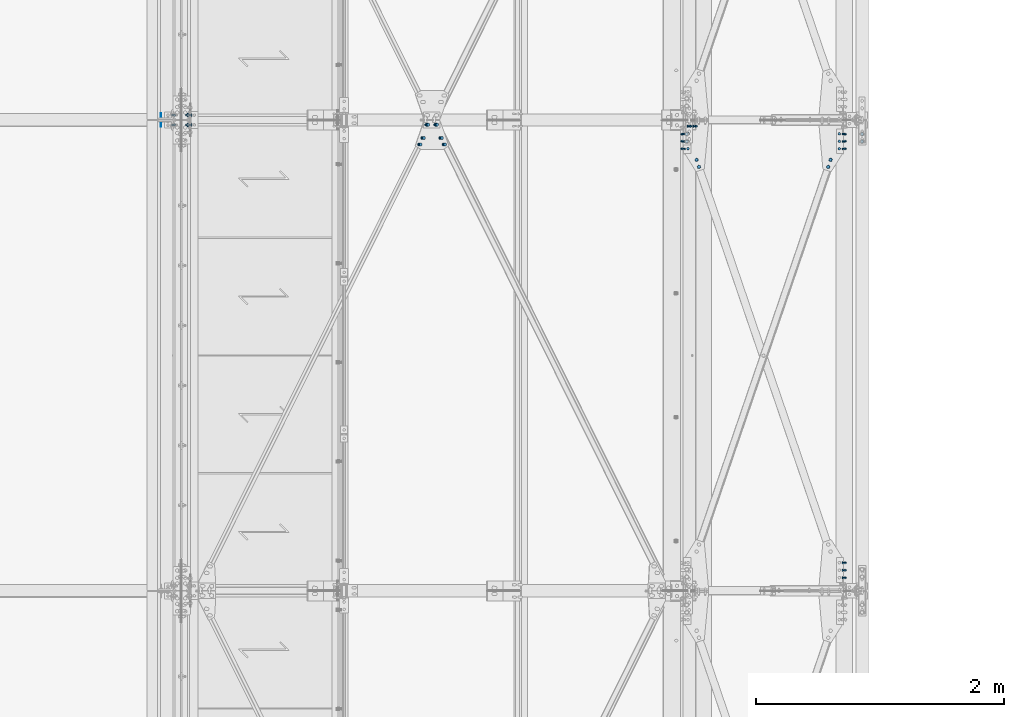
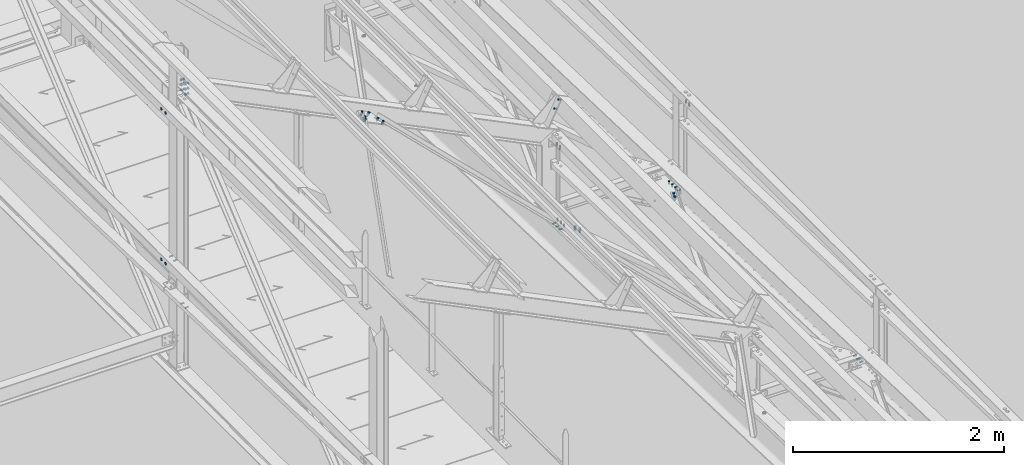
# One storey, part 193 of 362: 18 mechanical fasteners.
"""IFC2X3 building model written with IfcOpenShell, lengths in millimetres."""

from ifc_helpers import new_model, si_unit, frame, frame_2d, origin_with_axes, origin_2d_with_axis, place, context, subcontext, project, spatial, polyline, circle_curve, parameter, trimmed, segment, composite_curve, circle, outline, extrude, source, transform, mapped, material, type_object, element, save


model = new_model("IFC2X3")

# Units and contexts
model_context = context("Model", 3, precision=1e-05, world=origin_with_axes())
body_context = subcontext(model_context, "Body", "Model", "MODEL_VIEW")
ifc_project = project(units=[si_unit("LENGTHUNIT", "METRE", prefix="MILLI"), si_unit("AREAUNIT", "SQUARE_METRE"), si_unit("VOLUMEUNIT", "CUBIC_METRE"), si_unit("MASSUNIT", "GRAM", prefix="KILO"), si_unit("TIMEUNIT", "SECOND"), si_unit("PLANEANGLEUNIT", "RADIAN"), si_unit("SOLIDANGLEUNIT", "STERADIAN"), si_unit("THERMODYNAMICTEMPERATUREUNIT", "DEGREE_CELSIUS"), si_unit("LUMINOUSINTENSITYUNIT", "LUMEN")], contexts=[model_context])

# Site, building, storey
site_placement = place(None, origin_with_axes())
site = spatial("IfcSite", under=ifc_project, at=site_placement, Name="Undefined", CompositionType="ELEMENT")
building_placement = place(site_placement, origin_with_axes())
building = spatial("IfcBuilding", under=site, at=building_placement, Name="Undefined", CompositionType="ELEMENT")
storey_placement = place(building_placement, origin_with_axes())
storey = spatial("IfcBuildingStorey", under=building, at=storey_placement, Name="Undefined", CompositionType="ELEMENT", Elevation=0.0)

# Mechanical fasteners
ifc_material_1 = material(Name="8.8-SB-ZINGUE")
mechanical_fastener_type = type_object("IfcMechanicalFastenerType", Name="Bolt assembly")
shared_shape_1 = source(origin_with_axes(), body_context, "Body", "SweptSolid", [
    extrude(circle(Radius=7.0, at=origin_2d_with_axis()), frame((0.0, -0.10007666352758, 0.0), z_axis=(0.0, 1.0, 0.0), x_axis=(1.0, 0.0, 0.0)), (0.0, 0.0, 1.0), 3.1),
    extrude(circle(Radius=7.0, at=origin_2d_with_axis()), frame((0.0, -9.9, 0.0), z_axis=(0.0, 1.0, 0.0), x_axis=(1.0, 0.0, 0.0)), (0.0, 0.0, 1.0), 10.0),
    extrude(outline(polyline([(10.39230484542, 0.0), (5.19615242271, 9.00000000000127), (-5.19615242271, 9.00000000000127), (-10.39230484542, 0.0), (-5.19615242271, -9.00000000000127), (5.19615242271, -9.00000000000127), (10.39230484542, 0.0)])), frame((0.0, -17.92, 0.0), z_axis=(0.0, 1.0, 0.0), x_axis=(1.0, 0.0, 0.0)), (0.0, 0.0, 1.0), 7.92),
    extrude(circle(Radius=6.0, at=origin_2d_with_axis()), frame((0.0, -10.0000010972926, 0.0), z_axis=(0.0, 1.0, 0.0), x_axis=(1.0, 0.0, 0.0)), (0.0, 0.0, 1.0), 30.0),
    extrude(outline(polyline([(11.5008173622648, 0.0), (5.7504086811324, 9.96000000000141), (-5.7504086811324, 9.96000000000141), (-11.5008173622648, 0.0), (-5.7504086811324, -9.96000000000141), (5.7504086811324, -9.96000000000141), (11.5008173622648, 0.0)])), frame((0.0, 3.00000067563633, 0.0), z_axis=(0.0, 1.0, 0.0), x_axis=(1.0, 0.0, 0.0)), (0.0, 0.0, 1.0), 7.92),
])
mechanical_fastener_1_placement = place(storey_placement, frame((38381.4177064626, 11350.0000596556, 8807.89604207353), z_axis=(0.0, 1.0, 0.0), x_axis=(0.44122107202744, 0.0, 0.89739844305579)))
element("IfcMechanicalFastener", 1, at=mechanical_fastener_1_placement, inside=storey, type_object=mechanical_fastener_type, material=ifc_material_1, Name="Bolt assembly", NominalDiameter=12.0, NominalLength=30.0, context=body_context, shape_type="MappedRepresentation", body=[
    mapped(shared_shape_1, transform((0.0, 0.0, 0.0))),
    mapped(shared_shape_1, transform((99.9999999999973, -1.63709046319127e-11, 7.73070496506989e-12))),
])
ifc_material_2 = material(Name="6.8")
shared_shape_2 = source(origin_with_axes(), body_context, "Body", "SweptSolid", [
    extrude(circle(Radius=15.0, at=origin_2d_with_axis()), frame((0.0, 0.0, 0.0), z_axis=(0.0, 1.0, 0.0), x_axis=(1.0, 0.0, 0.0)), (0.0, 0.0, 1.0), 4.1),
])
mechanical_fastener_2_placement = place(storey_placement, frame((34113.4999999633, 11400.0, 10245.0), z_axis=(0.0, 1.0, 0.0), x_axis=(0.0, 0.0, 1.0)))
element("IfcMechanicalFastener", 2, at=mechanical_fastener_2_placement, inside=storey, type_object=mechanical_fastener_type, material=ifc_material_2, Name="Bolt assembly", NominalDiameter=30.0, NominalLength=4.0, context=body_context, shape_type="MappedRepresentation", body=[
    mapped(shared_shape_2, transform((0.0, 0.0, 40.0))),
    mapped(shared_shape_2, transform((0.0, 0.0, -40.0))),
])
shared_shape_3 = source(origin_with_axes(), body_context, "Body", "SweptSolid", [
    extrude(circle(Radius=7.0, at=origin_2d_with_axis()), frame((0.0, -0.100011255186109, 0.0), z_axis=(0.0, 1.0, 0.0), x_axis=(1.0, 0.0, 0.0)), (0.0, 0.0, 1.0), 6.1),
    extrude(circle(Radius=7.0, at=origin_2d_with_axis()), frame((0.0, -5.9000361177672, 0.0), z_axis=(0.0, 1.0, 0.0), x_axis=(1.0, 0.0, 0.0)), (0.0, 0.0, 1.0), 6.0),
    extrude(outline(polyline([(10.39230484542, 0.0), (5.19615242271, 9.00000000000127), (-5.19615242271, 9.00000000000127), (-10.39230484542, 0.0), (-5.19615242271, -9.00000000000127), (5.19615242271, -9.00000000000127), (10.39230484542, 0.0)])), frame((0.0, -13.9200361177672, 0.0), z_axis=(0.0, 1.0, 0.0), x_axis=(1.0, 0.0, 0.0)), (0.0, 0.0, 1.0), 7.92),
    extrude(circle(Radius=6.0, at=origin_2d_with_axis()), frame((0.0, -6.00003611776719, 0.0), z_axis=(0.0, 1.0, 0.0), x_axis=(1.0, 0.0, 0.0)), (0.0, 0.0, 1.0), 30.0),
    extrude(outline(polyline([(11.5008173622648, 0.0), (5.7504086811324, 9.96000000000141), (-5.7504086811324, 9.96000000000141), (-11.5008173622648, 0.0), (-5.7504086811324, -9.96000000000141), (5.7504086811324, -9.96000000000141), (11.5008173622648, 0.0)])), frame((0.0, 6.0, 0.0), z_axis=(0.0, 1.0, 0.0), x_axis=(1.0, 0.0, 0.0)), (0.0, 0.0, 1.0), 7.92),
])
mechanical_fastener_3_placement = place(storey_placement, frame((38370.0, 11228.0107646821, 7571.08332484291), z_axis=(0.0, -0.999506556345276, 0.031410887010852), x_axis=(-1.0, 0.0, 0.0)))
element("IfcMechanicalFastener", 3, at=mechanical_fastener_3_placement, inside=storey, type_object=mechanical_fastener_type, material=ifc_material_1, Name="Bolt assembly", NominalDiameter=12.0, NominalLength=30.0, context=body_context, shape_type="MappedRepresentation", body=[
    mapped(shared_shape_3, transform((0.0, 0.0, -60.0))),
    mapped(shared_shape_3, transform((0.0, 0.0, 0.0))),
    mapped(shared_shape_3, transform((0.0, 0.0, 60.0))),
])
shared_shape_4 = source(origin_with_axes(), body_context, "Body", "SweptSolid", [
    extrude(circle(Radius=7.0, at=origin_2d_with_axis()), frame((0.0, -0.0999426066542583, 0.0), z_axis=(0.0, 1.0, 0.0), x_axis=(1.0, 0.0, 0.0)), (0.0, 0.0, 1.0), 8.6),
    extrude(circle(Radius=7.0, at=origin_2d_with_axis()), frame((0.0, -6.9, 0.0), z_axis=(0.0, 1.0, 0.0), x_axis=(1.0, 0.0, 0.0)), (0.0, 0.0, 1.0), 7.0),
    extrude(outline(polyline([(10.39230484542, 0.0), (5.19615242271, 9.00000000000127), (-5.19615242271, 9.00000000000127), (-10.39230484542, 0.0), (-5.19615242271, -9.00000000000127), (5.19615242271, -9.00000000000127), (10.39230484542, 0.0)])), frame((0.0, -14.92, 0.0), z_axis=(0.0, 1.0, 0.0), x_axis=(1.0, 0.0, 0.0)), (0.0, 0.0, 1.0), 7.92),
    extrude(circle(Radius=6.0, at=origin_2d_with_axis()), frame((0.0, -7.0, 0.0), z_axis=(0.0, 1.0, 0.0), x_axis=(1.0, 0.0, 0.0)), (0.0, 0.0, 1.0), 30.0),
    extrude(outline(polyline([(11.5008173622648, 0.0), (5.7504086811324, 9.96000000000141), (-5.7504086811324, 9.96000000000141), (-11.5008173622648, 0.0), (-5.7504086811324, -9.96000000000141), (5.7504086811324, -9.96000000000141), (11.5008173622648, 0.0)])), frame((0.0, 8.50005763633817, 0.0), z_axis=(0.0, 1.0, 0.0), x_axis=(1.0, 0.0, 0.0)), (0.0, 0.0, 1.0), 7.92),
])
mechanical_fastener_4_placement = place(storey_placement, frame((34346.5000576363, 11399.9999999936, 7910.00000000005), z_axis=(0.0, -1.0, 0.0), x_axis=(0.0, 0.0, 1.0)))
element("IfcMechanicalFastener", 4, at=mechanical_fastener_4_placement, inside=storey, type_object=mechanical_fastener_type, material=ifc_material_1, Name="Bolt assembly", NominalDiameter=12.0, NominalLength=30.0, context=body_context, shape_type="MappedRepresentation", body=[
    mapped(shared_shape_4, transform((0.0, 0.0, -40.0))),
    mapped(shared_shape_4, transform((0.0, 0.0, 40.0))),
])
shared_shape_5 = source(origin_with_axes(), body_context, "Body", "SweptSolid", [
    extrude(circle(Radius=7.0, at=origin_2d_with_axis()), frame((0.0, -3.89999843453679, 0.0), z_axis=(0.0, 1.0, 0.0), x_axis=(1.0, 0.0, 0.0)), (0.0, 0.0, 1.0), 4.0),
    extrude(outline(composite_curve([segment(polyline([(-7.0, 7.0), (7.0, 7.0)]), True, "CONTINUOUS"), segment(trimmed(circle_curve(frame_2d((7.0, 0.0), x_axis=(0.0, 1.0)), 7.0), [parameter(0.0)], [parameter(3.14159265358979)], False, "PARAMETER"), True, "CONTINUOUS"), segment(polyline([(7.0, -7.0), (-7.0, -7.0)]), True, "CONTINUOUS"), segment(trimmed(circle_curve(frame_2d((-7.0, 0.0), x_axis=(0.0, -1.0)), 7.0), [parameter(0.0)], [parameter(3.14159265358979)], False, "PARAMETER"), True, "DISCONTINUOUS")], self_intersect=False)), frame((0.0, -0.100011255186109, 0.0), z_axis=(0.0, 1.0, 0.0), x_axis=(1.0, 0.0, 0.0)), (0.0, 0.0, 1.0), 10.1),
    extrude(outline(polyline([(10.39230484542, 0.0), (5.19615242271, 9.00000000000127), (-5.19615242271, 9.00000000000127), (-10.39230484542, 0.0), (-5.19615242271, -9.00000000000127), (5.19615242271, -9.00000000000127), (10.39230484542, 0.0)])), frame((0.0, -11.9199984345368, 0.0), z_axis=(0.0, 1.0, 0.0), x_axis=(1.0, 0.0, 0.0)), (0.0, 0.0, 1.0), 7.92),
    extrude(circle(Radius=6.0, at=origin_2d_with_axis()), frame((0.0, -3.99999923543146, 0.0), z_axis=(0.0, 1.0, 0.0), x_axis=(1.0, 0.0, 0.0)), (0.0, 0.0, 1.0), 40.0),
    extrude(circle(Radius=10.8, at=origin_2d_with_axis()), frame((0.0, 10.0000000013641, 0.0), z_axis=(0.0, 1.0, 0.0), x_axis=(1.0, 0.0, 0.0)), (0.0, 0.0, 1.0), 3.96),
    extrude(outline(polyline([(11.5008173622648, 0.0), (5.7504086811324, 9.96000000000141), (-5.7504086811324, 9.96000000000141), (-11.5008173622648, 0.0), (-5.7504086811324, -9.96000000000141), (5.7504086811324, -9.96000000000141), (11.5008173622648, 0.0)])), frame((0.0, 13.96, 0.0), z_axis=(0.0, 1.0, 0.0), x_axis=(1.0, 0.0, 0.0)), (0.0, 0.0, 1.0), 7.92),
])
mechanical_fastener_5_placement = place(storey_placement, frame((39775.0, 11226.5, 8450.0), z_axis=(-1.0, 0.0, 0.0), x_axis=(0.0, 1.0, 0.0)))
element("IfcMechanicalFastener", 5, at=mechanical_fastener_5_placement, inside=storey, type_object=mechanical_fastener_type, material=ifc_material_1, Name="Bolt assembly", NominalDiameter=12.0, NominalLength=40.0, context=body_context, shape_type="MappedRepresentation", body=[
    mapped(shared_shape_5, transform((0.0, 0.0, 0.0))),
    mapped(shared_shape_5, transform((60.0, 0.0, 0.0))),
])
ifc_material_3 = material(Name="#_SB-8.8-ZINGUE")
shared_shape_6 = source(origin_with_axes(), body_context, "Body", "SweptSolid", [
    extrude(circle(Radius=9.0, at=origin_2d_with_axis()), frame((0.0, -4.89938005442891, 0.0), z_axis=(0.0, 1.0, 0.0), x_axis=(1.0, 0.0, 0.0)), (0.0, 0.0, 1.0), 5.0),
    extrude(circle(Radius=9.0, at=origin_2d_with_axis()), frame((0.0, -0.0993474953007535, 0.0), z_axis=(0.0, 1.0, 0.0), x_axis=(1.0, 0.0, 0.0)), (0.0, 0.0, 1.0), 6.1),
    extrude(outline(polyline([(13.85640646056, 0.0), (6.92820323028, 12.0000000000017), (-6.92820323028, 12.0000000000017), (-13.85640646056, 0.0), (-6.92820323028, -12.0000000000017), (6.92820323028, -12.0000000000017), (13.85640646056, 0.0)])), frame((0.0, -15.5593800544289, 0.0), z_axis=(0.0, 1.0, 0.0), x_axis=(1.0, 0.0, 0.0)), (0.0, 0.0, 1.0), 10.56),
    extrude(circle(Radius=8.0, at=origin_2d_with_axis()), frame((0.0, -4.99938005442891, 0.0), z_axis=(0.0, 1.0, 0.0), x_axis=(1.0, 0.0, 0.0)), (0.0, 0.0, 1.0), 30.0),
    extrude(outline(polyline([(15.3344231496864, 0.0), (7.6672115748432, 13.2800000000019), (-7.6672115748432, 13.2800000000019), (-15.3344231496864, 0.0), (-7.6672115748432, -13.2800000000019), (7.6672115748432, -13.2800000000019), (15.3344231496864, 0.0)])), frame((0.0, 6.00065250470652, 0.0), z_axis=(0.0, 1.0, 0.0), x_axis=(1.0, 0.0, 0.0)), (0.0, 0.0, 1.0), 10.56),
])
for number, where, z_axis, x_axis, name in (
    (6, (36377.1777893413, 11254.9111471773, 9447.87172979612), (0.784869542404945, 0.484835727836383, -0.385893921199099), (0.435090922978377, -0.874605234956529, -0.213919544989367), "Bolt assembly"),
    (7, (36232.8227392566, 11254.9111420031, 9518.84624567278), (0.784869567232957, -0.484835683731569, -0.385893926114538), (-0.43509087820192, -0.874605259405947, 0.213919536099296), "Bolt assembly"),
):
    element("IfcMechanicalFastener", number, at=place(storey_placement, frame(where, z_axis=z_axis, x_axis=x_axis)), inside=storey, type_object=mechanical_fastener_type, material=ifc_material_3, Name=name, NominalDiameter=16.0, NominalLength=30.0, context=body_context, shape_type="MappedRepresentation", body=[
        mapped(shared_shape_6, transform((0.0, 0.0, 0.0))),
        mapped(shared_shape_6, transform((60.0, 0.0, 0.0))),
    ])
shared_shape_7 = source(origin_with_axes(), body_context, "Body", "SweptSolid", [
    extrude(circle(Radius=9.0, at=origin_2d_with_axis()), frame((0.0, 5.90002706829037, 0.0), z_axis=(0.0, 1.0, 0.0), x_axis=(1.0, 0.0, 0.0)), (0.0, 0.0, 1.0), 6.1),
    extrude(circle(Radius=9.0, at=origin_2d_with_axis()), frame((0.0, 0.1, 0.0), z_axis=(0.0, 1.0, 0.0), x_axis=(1.0, 0.0, 0.0)), (0.0, 0.0, 1.0), 6.0),
    extrude(outline(polyline([(13.85640646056, 0.0), (6.92820323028, 12.0000000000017), (-6.92820323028, 12.0000000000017), (-13.85640646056, 0.0), (-6.92820323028, -12.0000000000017), (6.92820323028, -12.0000000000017), (13.85640646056, 0.0)])), frame((0.0, -10.5600019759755, 0.0), z_axis=(0.0, 1.0, 0.0), x_axis=(1.0, 0.0, 0.0)), (0.0, 0.0, 1.0), 10.56),
    extrude(circle(Radius=8.0, at=origin_2d_with_axis()), frame((0.0, 0.0, 0.0), z_axis=(0.0, 1.0, 0.0), x_axis=(1.0, 0.0, 0.0)), (0.0, 0.0, 1.0), 40.0),
    extrude(outline(polyline([(15.3344231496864, 0.0), (7.6672115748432, 13.2800000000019), (-7.6672115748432, 13.2800000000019), (-15.3344231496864, 0.0), (-7.6672115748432, -13.2800000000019), (7.6672115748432, -13.2800000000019), (15.3344231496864, 0.0)])), frame((0.0, 12.0000270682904, 0.0), z_axis=(0.0, 1.0, 0.0), x_axis=(1.0, 0.0, 0.0)), (0.0, 0.0, 1.0), 10.56),
])
mechanical_fastener_6_placement = place(storey_placement, frame((36304.9967059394, 11362.0004570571, 9483.36004369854), z_axis=(-0.897398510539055, -1.29999898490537e-08, 0.441220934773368), x_axis=(0.0, 1.0, 0.0)))
element("IfcMechanicalFastener", 8, at=mechanical_fastener_6_placement, inside=storey, type_object=mechanical_fastener_type, material=ifc_material_3, Name="Bolt assembly", NominalDiameter=16.0, NominalLength=40.0, context=body_context, shape_type="MappedRepresentation", body=[
    mapped(shared_shape_7, transform((0.0, 0.0, -40.0))),
    mapped(shared_shape_7, transform((0.0, 0.0, 40.0))),
])
shared_shape_8 = source(origin_with_axes(), body_context, "Body", "SweptSolid", [
    extrude(circle(Radius=7.0, at=origin_2d_with_axis()), frame((0.0, -3.89999843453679, 0.0), z_axis=(0.0, 1.0, 0.0), x_axis=(1.0, 0.0, 0.0)), (0.0, 0.0, 1.0), 4.0),
    extrude(outline(composite_curve([segment(polyline([(-7.0, 7.0), (7.0, 7.0)]), True, "CONTINUOUS"), segment(trimmed(circle_curve(frame_2d((7.0, 0.0), x_axis=(0.0, 1.0)), 7.0), [parameter(0.0)], [parameter(3.14159265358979)], False, "PARAMETER"), True, "CONTINUOUS"), segment(polyline([(7.0, -7.0), (-7.0, -7.0)]), True, "CONTINUOUS"), segment(trimmed(circle_curve(frame_2d((-7.0, 0.0), x_axis=(0.0, -1.0)), 7.0), [parameter(0.0)], [parameter(3.14159265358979)], False, "PARAMETER"), True, "DISCONTINUOUS")], self_intersect=False)), frame((0.0, -0.100011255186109, 0.0), z_axis=(0.0, 1.0, 0.0), x_axis=(1.0, 0.0, 0.0)), (0.0, 0.0, 1.0), 10.1),
    extrude(outline(polyline([(10.39230484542, 0.0), (5.19615242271, 9.00000000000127), (-5.19615242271, 9.00000000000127), (-10.39230484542, 0.0), (-5.19615242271, -9.00000000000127), (5.19615242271, -9.00000000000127), (10.39230484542, 0.0)])), frame((0.0, -11.9199984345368, 0.0), z_axis=(0.0, 1.0, 0.0), x_axis=(1.0, 0.0, 0.0)), (0.0, 0.0, 1.0), 7.92),
    extrude(circle(Radius=6.0, at=origin_2d_with_axis()), frame((0.0, -3.99999923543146, 0.0), z_axis=(0.0, 1.0, 0.0), x_axis=(1.0, 0.0, 0.0)), (0.0, 0.0, 1.0), 40.0),
    extrude(circle(Radius=10.8, at=origin_2d_with_axis()), frame((0.0, 10.0000000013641, 0.0), z_axis=(0.0, 1.0, 0.0), x_axis=(1.0, 0.0, 0.0)), (0.0, 0.0, 1.0), 3.96),
    extrude(outline(polyline([(11.5008173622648, 0.0), (5.7504086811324, 9.96000000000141), (-5.7504086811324, 9.96000000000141), (-11.5008173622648, 0.0), (-5.7504086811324, -9.96000000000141), (5.7504086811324, -9.96000000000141), (11.5008173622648, 0.0)])), frame((0.0, 13.96, 0.0), z_axis=(0.0, 1.0, 0.0), x_axis=(1.0, 0.0, 0.0)), (0.0, 0.0, 1.0), 7.92),
])
mechanical_fastener_7_placement = place(storey_placement, frame((38360.0, 11226.5, 8450.0), z_axis=(-1.0, 0.0, 0.0), x_axis=(0.0, 1.0, 0.0)))
element("IfcMechanicalFastener", 9, at=mechanical_fastener_7_placement, inside=storey, type_object=mechanical_fastener_type, material=ifc_material_1, Name="Bolt assembly", NominalDiameter=12.0, NominalLength=40.0, context=body_context, shape_type="MappedRepresentation", body=[
    mapped(shared_shape_8, transform((0.0, 0.0, 0.0))),
    mapped(shared_shape_8, transform((60.0, 0.0, 0.0))),
])
shared_shape_9 = source(origin_with_axes(), body_context, "Body", "SweptSolid", [
    extrude(circle(Radius=9.0, at=origin_2d_with_axis()), frame((0.0, -0.091713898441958, 0.0), z_axis=(0.0, 1.0, 0.0), x_axis=(1.0, 0.0, 0.0)), (0.0, 0.0, 1.0), 8.6),
    extrude(circle(Radius=9.0, at=origin_2d_with_axis()), frame((0.0, -9.89171439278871, 0.0), z_axis=(0.0, 1.0, 0.0), x_axis=(1.0, 0.0, 0.0)), (0.0, 0.0, 1.0), 10.0),
    extrude(outline(polyline([(13.85640646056, 0.0), (6.92820323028, 12.0000000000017), (-6.92820323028, 12.0000000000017), (-13.85640646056, 0.0), (-6.92820323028, -12.0000000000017), (6.92820323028, -12.0000000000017), (13.85640646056, 0.0)])), frame((0.0, -20.5517143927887, 0.0), z_axis=(0.0, 1.0, 0.0), x_axis=(1.0, 0.0, 0.0)), (0.0, 0.0, 1.0), 10.56),
    extrude(circle(Radius=8.0, at=origin_2d_with_axis()), frame((0.0, -9.99171439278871, 0.0), z_axis=(0.0, 1.0, 0.0), x_axis=(1.0, 0.0, 0.0)), (0.0, 0.0, 1.0), 40.0),
    extrude(outline(polyline([(15.3344231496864, 0.0), (7.6672115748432, 13.2800000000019), (-7.6672115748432, 13.2800000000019), (-15.3344231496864, 0.0), (-7.6672115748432, -13.2800000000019), (7.6672115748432, -13.2800000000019), (15.3344231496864, 0.0)])), frame((0.0, 8.50828610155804, 0.0), z_axis=(0.0, 1.0, 0.0), x_axis=(1.0, 0.0, 0.0)), (0.0, 0.0, 1.0), 10.56),
])
mechanical_fastener_8_placement = place(storey_placement, frame((34346.5082856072, 11360.0, 10446.3709529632), z_axis=(0.0, 0.0, 1.0), x_axis=(0.0, 1.0, 0.0)))
element("IfcMechanicalFastener", 10, at=mechanical_fastener_8_placement, inside=storey, type_object=mechanical_fastener_type, material=ifc_material_1, Name="Bolt assembly", NominalDiameter=16.0, NominalLength=40.0, context=body_context, shape_type="MappedRepresentation", body=[
    mapped(shared_shape_9, transform((0.0, 0.0, -60.0))),
    mapped(shared_shape_9, transform((80.0, 0.0, -60.0))),
    mapped(shared_shape_9, transform((0.0, 0.0, 0.0))),
    mapped(shared_shape_9, transform((80.0, 0.0, 0.0))),
    mapped(shared_shape_9, transform((0.0, 0.0, 60.0))),
    mapped(shared_shape_9, transform((80.0, 0.0, 60.0))),
])
shared_shape_10 = source(origin_with_axes(), body_context, "Body", "SweptSolid", [
    extrude(circle(Radius=15.0, at=origin_2d_with_axis()), frame((0.0, -0.000130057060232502, 0.0), z_axis=(0.0, 1.0, 0.0), x_axis=(1.0, 0.0, 0.0)), (0.0, 0.0, 1.0), 4.1),
])
mechanical_fastener_9_placement = place(storey_placement, frame((34113.5001162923, 11400.0, 8500.0), z_axis=(0.0, -1.0, 0.0), x_axis=(0.0, 0.0, -1.0)))
element("IfcMechanicalFastener", 11, at=mechanical_fastener_9_placement, inside=storey, type_object=mechanical_fastener_type, material=ifc_material_2, Name="Bolt assembly", NominalDiameter=30.0, NominalLength=4.0, context=body_context, shape_type="MappedRepresentation", body=[
    mapped(shared_shape_10, transform((0.0, 0.0, -40.0))),
    mapped(shared_shape_10, transform((0.0, 0.0, 40.0))),
])
shared_shape_11 = source(origin_with_axes(), body_context, "Body", "SweptSolid", [
    extrude(circle(Radius=7.0, at=origin_2d_with_axis()), frame((0.0, -0.10007666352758, 0.0), z_axis=(0.0, 1.0, 0.0), x_axis=(1.0, 0.0, 0.0)), (0.0, 0.0, 1.0), 8.6),
    extrude(circle(Radius=7.0, at=origin_2d_with_axis()), frame((0.0, -3.90012822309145, 0.0), z_axis=(0.0, 1.0, 0.0), x_axis=(1.0, 0.0, 0.0)), (0.0, 0.0, 1.0), 4.0),
    extrude(outline(polyline([(10.39230484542, 0.0), (5.19615242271, 9.00000000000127), (-5.19615242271, 9.00000000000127), (-10.39230484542, 0.0), (-5.19615242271, -9.00000000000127), (5.19615242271, -9.00000000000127), (10.39230484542, 0.0)])), frame((0.0, -11.9201282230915, 0.0), z_axis=(0.0, 1.0, 0.0), x_axis=(1.0, 0.0, 0.0)), (0.0, 0.0, 1.0), 7.92),
    extrude(circle(Radius=6.0, at=origin_2d_with_axis()), frame((0.0, -4.00012822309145, 0.0), z_axis=(0.0, 1.0, 0.0), x_axis=(1.0, 0.0, 0.0)), (0.0, 0.0, 1.0), 30.0),
    extrude(outline(polyline([(11.5008173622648, 0.0), (5.7504086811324, 9.96000000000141), (-5.7504086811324, 9.96000000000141), (-11.5008173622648, 0.0), (-5.7504086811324, -9.96000000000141), (5.7504086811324, -9.96000000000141), (11.5008173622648, 0.0)])), frame((0.0, 8.49988372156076, 0.0), z_axis=(0.0, 1.0, 0.0), x_axis=(1.0, 0.0, 0.0)), (0.0, 0.0, 1.0), 7.92),
])
mechanical_fastener_10_placement = place(storey_placement, frame((34213.5001162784, 11400.0, 8500.00000188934), z_axis=(0.0, -1.0, 0.0), x_axis=(0.0, 0.0, -1.0)))
element("IfcMechanicalFastener", 12, at=mechanical_fastener_10_placement, inside=storey, type_object=mechanical_fastener_type, material=ifc_material_1, Name="Bolt assembly", NominalDiameter=12.0, NominalLength=30.0, context=body_context, shape_type="MappedRepresentation", body=[
    mapped(shared_shape_11, transform((0.0, 0.0, -40.0))),
    mapped(shared_shape_11, transform((0.0, 0.0, 40.0))),
])
shared_shape_12 = source(origin_with_axes(), body_context, "Body", "SweptSolid", [
    extrude(circle(Radius=9.0, at=origin_2d_with_axis()), frame((0.0, 2.90320279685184, 0.0), z_axis=(0.0, 1.0, 0.0), x_axis=(1.0, 0.0, 0.0)), (0.0, 0.0, 1.0), 6.1),
    extrude(circle(Radius=9.0, at=origin_2d_with_axis()), frame((0.0, -2.9, 0.0), z_axis=(0.0, 1.0, 0.0), x_axis=(1.0, 0.0, 0.0)), (0.0, 0.0, 1.0), 6.0),
    extrude(outline(polyline([(13.85640646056, 0.0), (6.92820323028, 12.0000000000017), (-6.92820323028, 12.0000000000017), (-13.85640646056, 0.0), (-6.92820323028, -12.0000000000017), (6.92820323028, -12.0000000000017), (13.85640646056, 0.0)])), frame((0.0, -13.56, 0.0), z_axis=(0.0, 1.0, 0.0), x_axis=(1.0, 0.0, 0.0)), (0.0, 0.0, 1.0), 10.56),
    extrude(circle(Radius=8.0, at=origin_2d_with_axis()), frame((0.0, -2.99999932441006, 0.0), z_axis=(0.0, 1.0, 0.0), x_axis=(1.0, 0.0, 0.0)), (0.0, 0.0, 1.0), 40.0),
    extrude(outline(polyline([(15.3344231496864, 0.0), (7.6672115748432, 13.2800000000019), (-7.6672115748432, 13.2800000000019), (-15.3344231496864, 0.0), (-7.6672115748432, -13.2800000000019), (7.6672115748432, -13.2800000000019), (15.3344231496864, 0.0)])), frame((0.0, 9.00320279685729, 0.0), z_axis=(0.0, 1.0, 0.0), x_axis=(1.0, 0.0, 0.0)), (0.0, 0.0, 1.0), 10.56),
])
mechanical_fastener_11_placement = place(storey_placement, frame((38439.2699657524, 11078.6157537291, 7578.77975029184), z_axis=(0.946212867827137, 0.323385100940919, -0.0101629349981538), x_axis=(0.323544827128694, -0.94574594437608, 0.0297212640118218)))
element("IfcMechanicalFastener", 13, at=mechanical_fastener_11_placement, inside=storey, type_object=mechanical_fastener_type, material=ifc_material_1, Name="Bolt assembly", NominalDiameter=16.0, NominalLength=40.0, context=body_context, shape_type="MappedRepresentation", body=[
    mapped(shared_shape_12, transform((0.0, 0.0, 0.0))),
    mapped(shared_shape_12, transform((60.0, 0.0, 0.0))),
])
shared_shape_13 = source(origin_with_axes(), body_context, "Body", "SweptSolid", [
    extrude(circle(Radius=9.0, at=origin_2d_with_axis()), frame((0.0, -8.89673959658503, 0.0), z_axis=(0.0, 1.0, 0.0), x_axis=(1.0, 0.0, 0.0)), (0.0, 0.0, 1.0), 6.0),
    extrude(circle(Radius=9.0, at=origin_2d_with_axis()), frame((0.0, -3.09999932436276, 0.0), z_axis=(0.0, 1.0, 0.0), x_axis=(1.0, 0.0, 0.0)), (0.0, 0.0, 1.0), 6.1),
    extrude(outline(polyline([(13.85640646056, 0.0), (6.92820323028, 12.0000000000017), (-6.92820323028, 12.0000000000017), (-13.85640646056, 0.0), (-6.92820323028, -12.0000000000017), (6.92820323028, -12.0000000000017), (13.85640646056, 0.0)])), frame((0.0, -19.556739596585, 0.0), z_axis=(0.0, 1.0, 0.0), x_axis=(1.0, 0.0, 0.0)), (0.0, 0.0, 1.0), 10.56),
    extrude(circle(Radius=8.0, at=origin_2d_with_axis()), frame((0.0, -8.99673959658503, 0.0), z_axis=(0.0, 1.0, 0.0), x_axis=(1.0, 0.0, 0.0)), (0.0, 0.0, 1.0), 40.0),
    extrude(outline(polyline([(15.3344231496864, 0.0), (7.6672115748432, 13.2800000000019), (-7.6672115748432, 13.2800000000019), (-15.3344231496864, 0.0), (-7.6672115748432, -13.2800000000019), (7.6672115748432, -13.2800000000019), (15.3344231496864, 0.0)])), frame((0.0, 3.00000067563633, 0.0), z_axis=(0.0, 1.0, 0.0), x_axis=(1.0, 0.0, 0.0)), (0.0, 0.0, 1.0), 10.56),
])
mechanical_fastener_12_placement = place(storey_placement, frame((39520.7300433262, 11078.6157504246, 7578.77975040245), z_axis=(0.946212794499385, -0.323385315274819, 0.0101629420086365), x_axis=(-0.323544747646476, -0.945745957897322, 0.0297216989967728)))
element("IfcMechanicalFastener", 14, at=mechanical_fastener_12_placement, inside=storey, type_object=mechanical_fastener_type, material=ifc_material_1, Name="Bolt assembly", NominalDiameter=16.0, NominalLength=40.0, context=body_context, shape_type="MappedRepresentation", body=[
    mapped(shared_shape_13, transform((0.0, 0.0, 0.0))),
    mapped(shared_shape_13, transform((60.0, 0.0, 0.0))),
])
shared_shape_14 = source(origin_with_axes(), body_context, "Body", "SweptSolid", [
    extrude(circle(Radius=7.0, at=origin_2d_with_axis()), frame((0.0, -0.100011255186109, 0.0), z_axis=(0.0, 1.0, 0.0), x_axis=(1.0, 0.0, 0.0)), (0.0, 0.0, 1.0), 6.1),
    extrude(circle(Radius=7.0, at=origin_2d_with_axis()), frame((0.0, -5.8999542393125, 0.0), z_axis=(0.0, 1.0, 0.0), x_axis=(1.0, 0.0, 0.0)), (0.0, 0.0, 1.0), 6.0),
    extrude(outline(polyline([(10.39230484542, 0.0), (5.19615242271, 9.00000000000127), (-5.19615242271, 9.00000000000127), (-10.39230484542, 0.0), (-5.19615242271, -9.00000000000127), (5.19615242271, -9.00000000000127), (10.39230484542, 0.0)])), frame((0.0, -13.9199542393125, 0.0), z_axis=(0.0, 1.0, 0.0), x_axis=(1.0, 0.0, 0.0)), (0.0, 0.0, 1.0), 7.92),
    extrude(circle(Radius=6.0, at=origin_2d_with_axis()), frame((0.0, -5.9999542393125, 0.0), z_axis=(0.0, 1.0, 0.0), x_axis=(1.0, 0.0, 0.0)), (0.0, 0.0, 1.0), 30.0),
    extrude(outline(polyline([(11.5008173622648, 0.0), (5.7504086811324, 9.96000000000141), (-5.7504086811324, 9.96000000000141), (-11.5008173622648, 0.0), (-5.7504086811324, -9.96000000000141), (5.7504086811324, -9.96000000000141), (11.5008173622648, 0.0)])), frame((0.0, 6.0, 0.0), z_axis=(0.0, 1.0, 0.0), x_axis=(1.0, 0.0, 0.0)), (0.0, 0.0, 1.0), 7.92),
])
mechanical_fastener_13_placement = place(storey_placement, frame((39591.4999999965, 11228.0107647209, 7571.08332484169), z_axis=(3.14103090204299e-11, 0.999506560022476, -0.0314107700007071), x_axis=(1.0, 0.0, 0.0)))
element("IfcMechanicalFastener", 15, at=mechanical_fastener_13_placement, inside=storey, type_object=mechanical_fastener_type, material=ifc_material_1, Name="Bolt assembly", NominalDiameter=12.0, NominalLength=30.0, context=body_context, shape_type="MappedRepresentation", body=[
    mapped(shared_shape_14, transform((0.0, 0.0, -60.0))),
    mapped(shared_shape_14, transform((0.0, 0.0, 0.0))),
    mapped(shared_shape_14, transform((0.0, 0.0, 60.0))),
])
shared_shape_15 = source(origin_with_axes(), body_context, "Body", "SweptSolid", [
    extrude(circle(Radius=7.0, at=origin_2d_with_axis()), frame((0.0, -3.40000002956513, 0.0), z_axis=(0.0, 1.0, 0.0), x_axis=(1.0, 0.0, 0.0)), (0.0, 0.0, 1.0), 6.7),
    extrude(circle(Radius=7.0, at=origin_2d_with_axis()), frame((0.0, -9.40000000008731, 0.0), z_axis=(0.0, 1.0, 0.0), x_axis=(1.0, 0.0, 0.0)), (0.0, 0.0, 1.0), 6.0),
    extrude(outline(polyline([(10.39230484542, 0.0), (5.19615242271, 9.00000000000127), (-5.19615242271, 9.00000000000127), (-10.39230484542, 0.0), (-5.19615242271, -9.00000000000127), (5.19615242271, -9.00000000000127), (10.39230484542, 0.0)])), frame((0.0, -17.4200000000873, 0.0), z_axis=(0.0, 1.0, 0.0), x_axis=(1.0, 0.0, 0.0)), (0.0, 0.0, 1.0), 7.92),
    extrude(circle(Radius=6.0, at=origin_2d_with_axis()), frame((0.0, -9.50000000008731, 0.0), z_axis=(0.0, 1.0, 0.0), x_axis=(1.0, 0.0, 0.0)), (0.0, 0.0, 1.0), 30.0),
    extrude(outline(polyline([(11.5008173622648, 0.0), (5.7504086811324, 9.96000000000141), (-5.7504086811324, 9.96000000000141), (-11.5008173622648, 0.0), (-5.7504086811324, -9.96000000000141), (5.7504086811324, -9.96000000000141), (11.5008173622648, 0.0)])), frame((0.0, 3.29999995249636, 0.0), z_axis=(0.0, 1.0, 0.0), x_axis=(1.0, 0.0, 0.0)), (0.0, 0.0, 1.0), 7.92),
])
for number, where, z_axis, x_axis, name in (
    (16, (39630.0000000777, 7766.74361902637, 7644.84078460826), (3.14103090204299e-11, 0.999506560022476, -0.0314107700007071), (7.58071938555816e-11, 0.0314107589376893, 0.999506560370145), "Bolt assembly"),
    (17, (39630.0000000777, 11226.9113881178, 7536.10059521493), (3.14103090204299e-11, 0.999506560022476, -0.0314107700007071), (7.58071938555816e-11, 0.0314107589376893, 0.999506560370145), "Bolt assembly"),
):
    element("IfcMechanicalFastener", number, at=place(storey_placement, frame(where, z_axis=z_axis, x_axis=x_axis)), inside=storey, type_object=mechanical_fastener_type, material=ifc_material_1, Name=name, NominalDiameter=12.0, NominalLength=30.0, context=body_context, shape_type="MappedRepresentation", body=[
        mapped(shared_shape_15, transform((0.0, 0.0, -60.0))),
        mapped(shared_shape_15, transform((0.0, 0.0, 0.0))),
        mapped(shared_shape_15, transform((0.0, 0.0, 60.0))),
    ])
shared_shape_16 = source(origin_with_axes(), body_context, "Body", "SweptSolid", [
    extrude(circle(Radius=7.0, at=origin_2d_with_axis()), frame((0.0, -4.79999988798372, 0.0), z_axis=(0.0, 1.0, 0.0), x_axis=(1.0, 0.0, 0.0)), (0.0, 0.0, 1.0), 9.5),
    extrude(circle(Radius=7.0, at=origin_2d_with_axis()), frame((0.0, -10.9000000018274, 0.0), z_axis=(0.0, 1.0, 0.0), x_axis=(1.0, 0.0, 0.0)), (0.0, 0.0, 1.0), 6.0),
    extrude(outline(polyline([(10.39230484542, 0.0), (5.19615242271, 9.00000000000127), (-5.19615242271, 9.00000000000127), (-10.39230484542, 0.0), (-5.19615242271, -9.00000000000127), (5.19615242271, -9.00000000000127), (10.39230484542, 0.0)])), frame((0.0, -18.9200000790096, 0.0), z_axis=(0.0, 1.0, 0.0), x_axis=(1.0, 0.0, 0.0)), (0.0, 0.0, 1.0), 7.92),
    extrude(circle(Radius=6.0, at=origin_2d_with_axis()), frame((0.0, -11.0000000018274, 0.0), z_axis=(0.0, 1.0, 0.0), x_axis=(1.0, 0.0, 0.0)), (0.0, 0.0, 1.0), 30.0),
    extrude(outline(polyline([(11.5008173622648, 0.0), (5.7504086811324, 9.96000000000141), (-5.7504086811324, 9.96000000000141), (-11.5008173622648, 0.0), (-5.7504086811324, -9.96000000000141), (5.7504086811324, -9.96000000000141), (11.5008173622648, 0.0)])), frame((0.0, 4.69999973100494, 0.0), z_axis=(0.0, 1.0, 0.0), x_axis=(1.0, 0.0, 0.0)), (0.0, 0.0, 1.0), 7.92),
])
mechanical_fastener_14_placement = place(storey_placement, frame((38329.9999999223, 11226.9113880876, 7536.10059521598), z_axis=(0.0, -0.999506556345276, 0.031410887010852), x_axis=(7.58071938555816e-11, 0.0314107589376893, 0.999506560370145)))
element("IfcMechanicalFastener", 18, at=mechanical_fastener_14_placement, inside=storey, type_object=mechanical_fastener_type, material=ifc_material_1, Name="Bolt assembly", NominalDiameter=12.0, NominalLength=30.0, context=body_context, shape_type="MappedRepresentation", body=[
    mapped(shared_shape_16, transform((0.0, 0.0, -60.0))),
    mapped(shared_shape_16, transform((0.0, 0.0, 0.0))),
    mapped(shared_shape_16, transform((0.0, 0.0, 60.0))),
])

save(model, "model.ifc")
